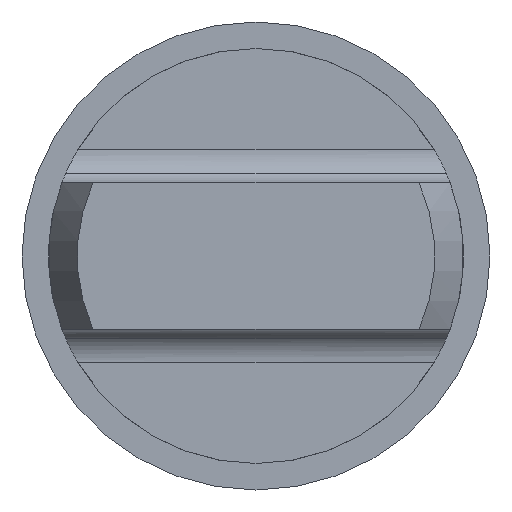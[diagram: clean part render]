
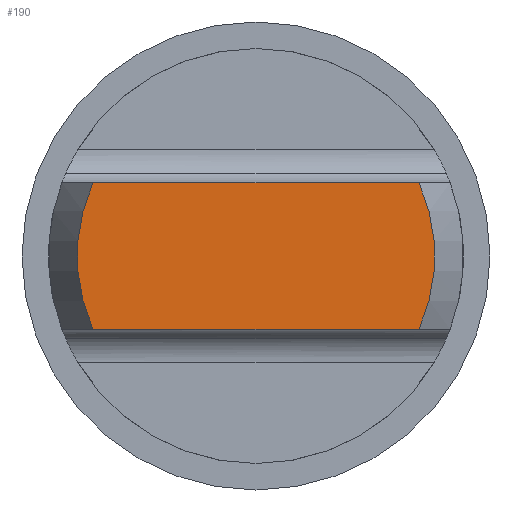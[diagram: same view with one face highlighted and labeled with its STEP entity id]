
A CAD part, left-side view. The second image highlights one B-rep face of the part: STEP entity #190.
In plain terms, the highlighted planar face has unit normal (-1, 0, 0).
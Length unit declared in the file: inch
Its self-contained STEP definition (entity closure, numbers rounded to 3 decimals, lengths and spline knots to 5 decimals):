
#190=ADVANCED_FACE('',(#386),#387,.F.);
#386=FACE_OUTER_BOUND('',#593,.T.);
#387=PLANE('',#594);
#593=EDGE_LOOP('',(#1042,#1043,#1044,#1045));
#594=AXIS2_PLACEMENT_3D('',#1046,#1047,#1048);
#1042=ORIENTED_EDGE('',*,*,#1329,.F.);
#1043=ORIENTED_EDGE('',*,*,#1239,.T.);
#1044=ORIENTED_EDGE('',*,*,#1194,.F.);
#1045=ORIENTED_EDGE('',*,*,#1317,.T.);
#1046=CARTESIAN_POINT('',(-4.64884,-1.,0.12637));
#1047=DIRECTION('',(1.0,0.,0.));
#1048=DIRECTION('',(0.,0.,-1.0));
#1194=EDGE_CURVE('',#1428,#1423,#1430,.T.);
#1239=EDGE_CURVE('',#1494,#1423,#1499,.T.);
#1317=EDGE_CURVE('',#1428,#1603,#1605,.T.);
#1329=EDGE_CURVE('',#1494,#1603,#1619,.T.);
#1423=VERTEX_POINT('',#1809);
#1428=VERTEX_POINT('',#1823);
#1430=CIRCLE('',#1834,0.10768);
#1494=VERTEX_POINT('',#1964);
#1499=LINE('',#1980,#1981);
#1603=VERTEX_POINT('',#2227);
#1605=LINE('',#2238,#2239);
#1619=CIRCLE('',#2257,0.10768);
#1809=CARTESIAN_POINT('',(-4.64884,-1.09825,0.08231));
#1823=CARTESIAN_POINT('',(-4.64884,-1.09825,0.17044));
#1834=AXIS2_PLACEMENT_3D('',#2334,#2335,#2336);
#1964=CARTESIAN_POINT('',(-4.64884,-0.90175,0.08231));
#1980=CARTESIAN_POINT('',(-4.64884,-1.07655,0.08231));
#1981=VECTOR('',#2393,0.3937);
#2227=CARTESIAN_POINT('',(-4.64884,-0.90175,0.17044));
#2238=CARTESIAN_POINT('',(-4.64884,-1.07655,0.17044));
#2239=VECTOR('',#2495,0.3937);
#2257=AXIS2_PLACEMENT_3D('',#2503,#2504,#2505);
#2334=CARTESIAN_POINT('',(-4.64884,-1.,0.12637));
#2335=DIRECTION('',(1.0,0.,0.));
#2336=DIRECTION('',(0.,0.,-1.0));
#2393=DIRECTION('',(0.,-1.0,0.));
#2495=DIRECTION('',(0.,1.0,0.));
#2503=CARTESIAN_POINT('',(-4.64884,-1.,0.12637));
#2504=DIRECTION('',(1.0,0.,0.));
#2505=DIRECTION('',(0.,0.,-1.0));
